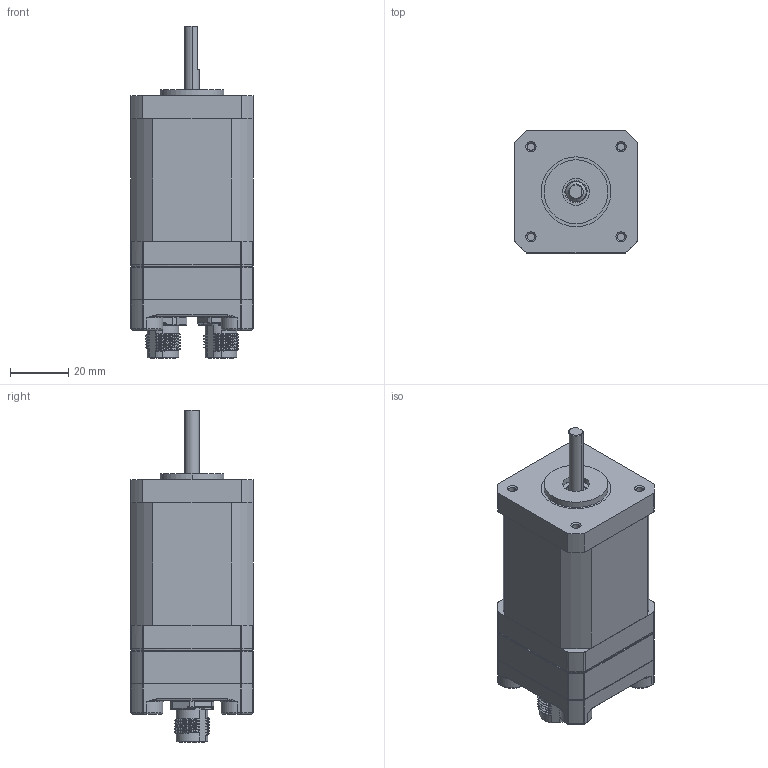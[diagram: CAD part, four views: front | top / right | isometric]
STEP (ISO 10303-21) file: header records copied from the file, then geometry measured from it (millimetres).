
FILE_DESCRIPTION (( 'STEP AP214' ), '1' );
FILE_NAME ('M42SH60-TO0512L05C.STEP', '2025-05-17T07:57:51', ( '' ), ( '' ), 'SwSTEP 2.0', 'SolidWorks 2019', '' );
FILE_SCHEMA (( 'AUTOMOTIVE_DESIGN' ));
Length unit declared in the file: millimetre
Products named in the file (1): M42SH60-TO0512L05C
Bounding box: 42 x 42 x 114.14 mm (x, y, z)
Volume: 56806.4 mm3; surface area: 53564.2 mm2
Topology: 44 solids, 44 shells, 4079 faces, 10322 edges, 6466 vertices
Faces by surface type: plane 1497, bspline 1045, cylinder 883, torus 460, cone 152, sphere 42
Entity records: 252145 total; most frequent: CARTESIAN_POINT 115190, ORIENTED_EDGE 20376, DIRECTION 16994, EDGE_CURVE 10188, VERTEX_POINT 6466, AXIS2_PLACEMENT_3D 6078, VECTOR 4838, LINE 4838
